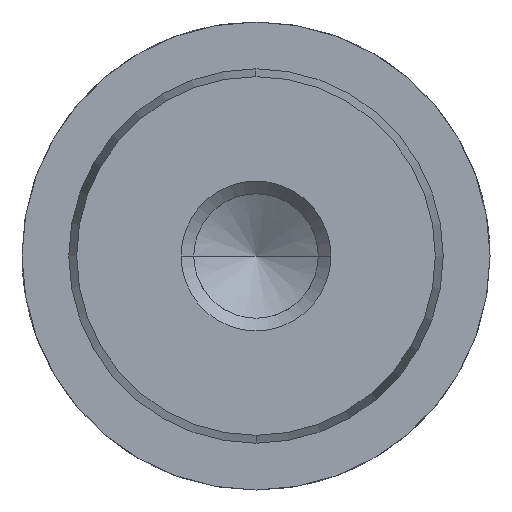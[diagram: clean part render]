
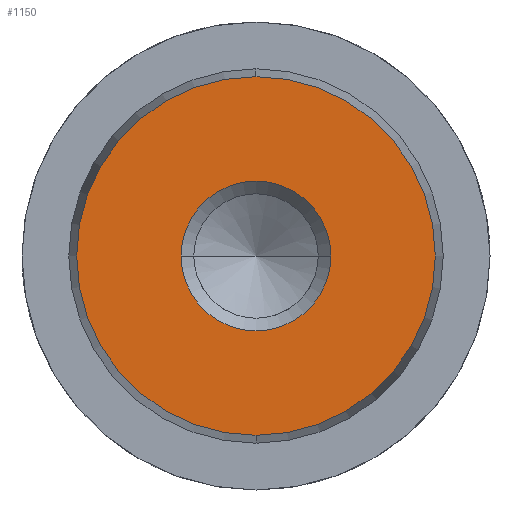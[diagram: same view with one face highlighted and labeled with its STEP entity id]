
A CAD part, left-side view. The second image highlights one B-rep face of the part: STEP entity #1150.
In plain terms, the highlighted planar face has unit normal (-1, 0, 0).
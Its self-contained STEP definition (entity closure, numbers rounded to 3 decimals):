
#1064=CARTESIAN_POINT('Vertex',(0.,0.,-9.578)) ;
#1067=CARTESIAN_POINT('Axis2P3D Location',(0.,0.,0.)) ;
#1071=CARTESIAN_POINT('Vertex',(0.,9.578,0.)) ;
#1074=CARTESIAN_POINT('Axis2P3D Location',(0.,0.,0.)) ;
#1078=CARTESIAN_POINT('Vertex',(0.,0.,9.578)) ;
#1100=CARTESIAN_POINT('Axis2P3D Location',(0.,0.,0.)) ;
#1104=CARTESIAN_POINT('Vertex',(0.,-9.578,0.)) ;
#1107=CARTESIAN_POINT('Axis2P3D Location',(0.,0.,0.)) ;
#1121=CARTESIAN_POINT('Axis2P3D Location',(0.,0.,0.)) ;
#1132=CARTESIAN_POINT('Axis2P3D Location',(0.,0.,0.)) ;
#1136=CARTESIAN_POINT('Vertex',(0.,4.,0.)) ;
#1138=CARTESIAN_POINT('Vertex',(0.,-4.,0.)) ;
#1141=CARTESIAN_POINT('Axis2P3D Location',(0.,0.,0.)) ;
#1068=DIRECTION('Axis2P3D Direction',(1.,0.,-0.)) ;
#1075=DIRECTION('Axis2P3D Direction',(1.,0.,-0.)) ;
#1101=DIRECTION('Axis2P3D Direction',(1.,0.,-0.)) ;
#1108=DIRECTION('Axis2P3D Direction',(1.,0.,-0.)) ;
#1122=DIRECTION('Axis2P3D Direction',(1.,0.,-0.)) ;
#1123=DIRECTION('Axis2P3D XDirection',(-0.,0.,-1.)) ;
#1133=DIRECTION('Axis2P3D Direction',(1.,0.,-0.)) ;
#1142=DIRECTION('Axis2P3D Direction',(1.,0.,-0.)) ;
#1069=AXIS2_PLACEMENT_3D('Circle Axis2P3D',#1067,#1068,$) ;
#1076=AXIS2_PLACEMENT_3D('Circle Axis2P3D',#1074,#1075,$) ;
#1102=AXIS2_PLACEMENT_3D('Circle Axis2P3D',#1100,#1101,$) ;
#1109=AXIS2_PLACEMENT_3D('Circle Axis2P3D',#1107,#1108,$) ;
#1124=AXIS2_PLACEMENT_3D('Plane Axis2P3D',#1121,#1122,#1123) ;
#1134=AXIS2_PLACEMENT_3D('Circle Axis2P3D',#1132,#1133,$) ;
#1143=AXIS2_PLACEMENT_3D('Circle Axis2P3D',#1141,#1142,$) ;
#1127=ORIENTED_EDGE('',*,*,#1073,.F.) ;
#1128=ORIENTED_EDGE('',*,*,#1111,.F.) ;
#1129=ORIENTED_EDGE('',*,*,#1106,.F.) ;
#1130=ORIENTED_EDGE('',*,*,#1080,.F.) ;
#1147=ORIENTED_EDGE('',*,*,#1140,.T.) ;
#1148=ORIENTED_EDGE('',*,*,#1145,.T.) ;
#1149=FACE_BOUND('',#1146,.T.) ;
#1150=ADVANCED_FACE('718-20x100',(#1131,#1149),#1125,.F.) ;
#1070=CIRCLE('generated circle',#1069,9.578) ;
#1077=CIRCLE('generated circle',#1076,9.578) ;
#1103=CIRCLE('generated circle',#1102,9.578) ;
#1110=CIRCLE('generated circle',#1109,9.578) ;
#1135=CIRCLE('generated circle',#1134,4.) ;
#1144=CIRCLE('generated circle',#1143,4.) ;
#1073=EDGE_CURVE('',#1065,#1072,#1070,.T.) ;
#1080=EDGE_CURVE('',#1072,#1079,#1077,.T.) ;
#1106=EDGE_CURVE('',#1079,#1105,#1103,.T.) ;
#1111=EDGE_CURVE('',#1105,#1065,#1110,.T.) ;
#1140=EDGE_CURVE('',#1137,#1139,#1135,.T.) ;
#1145=EDGE_CURVE('',#1139,#1137,#1144,.T.) ;
#1126=EDGE_LOOP('',(#1127,#1128,#1129,#1130)) ;
#1146=EDGE_LOOP('',(#1147,#1148)) ;
#1131=FACE_OUTER_BOUND('',#1126,.T.) ;
#1125=PLANE('Plane',#1124) ;
#1065=VERTEX_POINT('',#1064) ;
#1072=VERTEX_POINT('',#1071) ;
#1079=VERTEX_POINT('',#1078) ;
#1105=VERTEX_POINT('',#1104) ;
#1137=VERTEX_POINT('',#1136) ;
#1139=VERTEX_POINT('',#1138) ;
